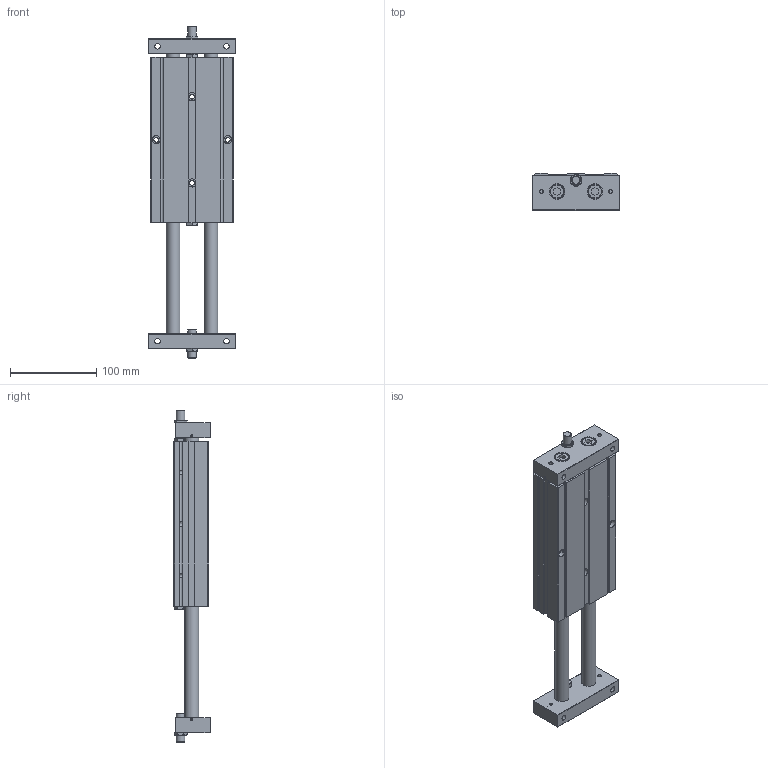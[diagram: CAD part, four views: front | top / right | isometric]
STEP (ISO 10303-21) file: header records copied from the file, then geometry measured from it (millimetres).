
FILE_DESCRIPTION((''),'2;1');
FILE_NAME('I:\3D電子目錄\氣缸\STU\STU\STU32\STU32x125.stp','2007-10-01T14:03:35',('Administrator'),(''),'Autodesk Inventor 11','Autodesk Inventor 11','');
FILE_SCHEMA(('AUTOMOTIVE_DESIGN { 1 0 10303 214 1 1 1 1 }'));
Length unit declared in the file: millimetre
Products named in the file (1): STU32
Bounding box: 100 x 42.5 x 385 mm (x, y, z)
Volume: 874584.3 mm3; surface area: 127291.3 mm2
Topology: 1 solids, 1 shells, 315 faces, 744 edges, 472 vertices
Faces by surface type: plane 145, cone 76, bspline 62, cylinder 28, torus 4
Full cylindrical faces by diameter (mm): 2.459 x2, 9.5 x4, 10 x4, 16 x6, 17.5 x4, 34 x2, 35.9 x2
Entity records: 9985 total; most frequent: CARTESIAN_POINT 3594, ORIENTED_EDGE 1220, DIRECTION 1212, EDGE_CURVE 610, EDGE_LOOP 518, AXIS2_PLACEMENT_3D 464, VERTEX_POINT 446, FACE_OUTER_BOUND 315
